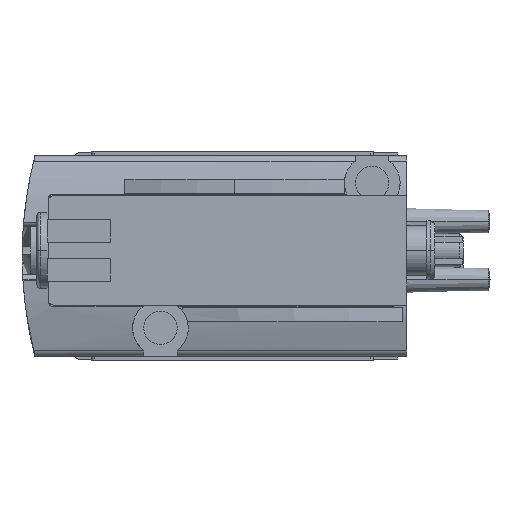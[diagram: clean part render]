
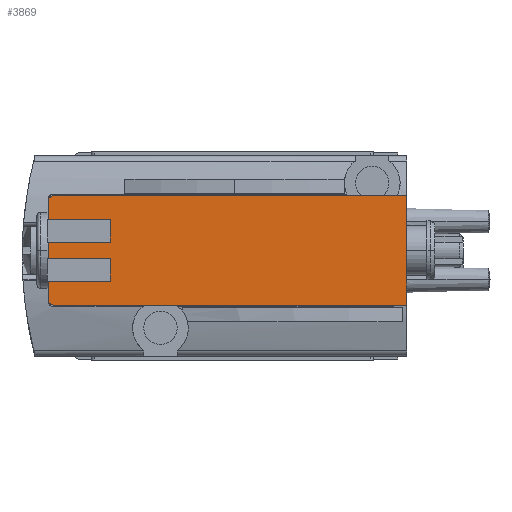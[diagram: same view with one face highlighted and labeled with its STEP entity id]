
A CAD part, left-side view. The second image highlights one B-rep face of the part: STEP entity #3869.
In plain terms, the highlighted planar face has unit normal (-1, 0, 0).
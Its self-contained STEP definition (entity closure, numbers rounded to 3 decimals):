
#8 = DIRECTION ( 'NONE',  ( 0., 1., 0. ) ) ;
#11 = VERTEX_POINT ( 'NONE', #5850 ) ;
#41 = LINE ( 'NONE', #5747, #1104 ) ;
#89 = EDGE_CURVE ( 'NONE', #11, #4051, #509, .T. ) ;
#126 = DIRECTION ( 'NONE',  ( 0., 0., 1. ) ) ;
#144 = CARTESIAN_POINT ( 'NONE',  ( -128.8, 69.1, -118.75 ) ) ;
#155 = VERTEX_POINT ( 'NONE', #3416 ) ;
#360 = VERTEX_POINT ( 'NONE', #5123 ) ;
#469 = CARTESIAN_POINT ( 'NONE',  ( -128.8, 71.316, -124.4 ) ) ;
#470 = CARTESIAN_POINT ( 'NONE',  ( -128.8, 74.181, -123.9 ) ) ;
#509 = CIRCLE ( 'NONE', #10120, 0.5 ) ;
#594 = CARTESIAN_POINT ( 'NONE',  ( -128.8, 69.1, -115.1 ) ) ;
#744 = VECTOR ( 'NONE', #126, 1000. ) ;
#916 = DIRECTION ( 'NONE',  ( 0., 0., -1. ) ) ;
#1049 = CARTESIAN_POINT ( 'NONE',  ( -128.8, 69.1, -118.75 ) ) ;
#1104 = VECTOR ( 'NONE', #6766, 1000. ) ;
#1162 = ORIENTED_EDGE ( 'NONE', *, *, #1470, .F. ) ;
#1470 = EDGE_CURVE ( 'NONE', #7063, #10327, #6790, .T. ) ;
#1578 = LINE ( 'NONE', #11353, #4526 ) ;
#1877 = CARTESIAN_POINT ( 'NONE',  ( -128.8, 71.316, -115.1 ) ) ;
#1998 = ORIENTED_EDGE ( 'NONE', *, *, #8787, .F. ) ;
#2062 = CARTESIAN_POINT ( 'NONE',  ( -128.8, 74.681, -115.1 ) ) ;
#2183 = CARTESIAN_POINT ( 'NONE',  ( -128.8, 74.181, -114.6 ) ) ;
#2202 = ORIENTED_EDGE ( 'NONE', *, *, #12140, .F. ) ;
#2480 = VECTOR ( 'NONE', #11301, 1000. ) ;
#2530 = DIRECTION ( 'NONE',  ( 0., 0., 1. ) ) ;
#2575 = CARTESIAN_POINT ( 'NONE',  ( -128.8, 74.681, -123.9 ) ) ;
#2646 = CARTESIAN_POINT ( 'NONE',  ( -128.8, 42.5, -124.4 ) ) ;
#2723 = LINE ( 'NONE', #12428, #6937 ) ;
#3013 = VERTEX_POINT ( 'NONE', #1049 ) ;
#3260 = ORIENTED_EDGE ( 'NONE', *, *, #11743, .T. ) ;
#3359 = CARTESIAN_POINT ( 'NONE',  ( -128.8, 74.181, -115.1 ) ) ;
#3416 = CARTESIAN_POINT ( 'NONE',  ( -128.8, 69.1, -122.25 ) ) ;
#3511 = VERTEX_POINT ( 'NONE', #9578 ) ;
#3805 = ORIENTED_EDGE ( 'NONE', *, *, #5595, .F. ) ;
#3869 = ADVANCED_FACE ( 'NONE', ( #6736 ), #10632, .F. ) ;
#3938 = ORIENTED_EDGE ( 'NONE', *, *, #7759, .T. ) ;
#4043 = DIRECTION ( 'NONE',  ( 0., 0., 1. ) ) ;
#4051 = VERTEX_POINT ( 'NONE', #2575 ) ;
#4115 = ORIENTED_EDGE ( 'NONE', *, *, #9349, .F. ) ;
#4155 = VECTOR ( 'NONE', #4645, 1000. ) ;
#4240 = ORIENTED_EDGE ( 'NONE', *, *, #10980, .T. ) ;
#4404 = VERTEX_POINT ( 'NONE', #4764 ) ;
#4463 = LINE ( 'NONE', #6458, #2480 ) ;
#4471 = VERTEX_POINT ( 'NONE', #5861 ) ;
#4513 = CARTESIAN_POINT ( 'NONE',  ( -128.8, 42.5, -125.5 ) ) ;
#4526 = VECTOR ( 'NONE', #10531, 1000. ) ;
#4588 = AXIS2_PLACEMENT_3D ( 'NONE', #1877, #5775, #916 ) ;
#4645 = DIRECTION ( 'NONE',  ( 0., 0., -1. ) ) ;
#4764 = CARTESIAN_POINT ( 'NONE',  ( -128.8, 74.681, -120.25 ) ) ;
#4779 = DIRECTION ( 'NONE',  ( 0., 1., 0. ) ) ;
#5123 = CARTESIAN_POINT ( 'NONE',  ( -128.8, 74.681, -122.25 ) ) ;
#5595 = EDGE_CURVE ( 'NONE', #8930, #7063, #2723, .T. ) ;
#5653 = LINE ( 'NONE', #594, #8070 ) ;
#5747 = CARTESIAN_POINT ( 'NONE',  ( -128.8, 72.581, -120.25 ) ) ;
#5775 = DIRECTION ( 'NONE',  ( 1., 0., 0. ) ) ;
#5842 = CARTESIAN_POINT ( 'NONE',  ( -128.8, 74.681, -116.75 ) ) ;
#5850 = CARTESIAN_POINT ( 'NONE',  ( -128.8, 74.181, -124.4 ) ) ;
#5861 = CARTESIAN_POINT ( 'NONE',  ( -128.8, 69.1, -120.25 ) ) ;
#5936 = VERTEX_POINT ( 'NONE', #6669 ) ;
#6458 = CARTESIAN_POINT ( 'NONE',  ( -128.8, 69.1, -122.25 ) ) ;
#6613 = DIRECTION ( 'NONE',  ( 0., -1., 0. ) ) ;
#6669 = CARTESIAN_POINT ( 'NONE',  ( -128.8, 74.681, -118.75 ) ) ;
#6736 = FACE_OUTER_BOUND ( 'NONE', #8221, .T. ) ;
#6766 = DIRECTION ( 'NONE',  ( 0., -1., 0. ) ) ;
#6790 = CIRCLE ( 'NONE', #8235, 0.5 ) ;
#6867 = VERTEX_POINT ( 'NONE', #2646 ) ;
#6937 = VECTOR ( 'NONE', #2530, 1000. ) ;
#7063 = VERTEX_POINT ( 'NONE', #2062 ) ;
#7269 = DIRECTION ( 'NONE',  ( 1., 0., 0. ) ) ;
#7581 = CARTESIAN_POINT ( 'NONE',  ( -128.8, 72.347, -116.75 ) ) ;
#7638 = CARTESIAN_POINT ( 'NONE',  ( -128.8, 42.5, -114.6 ) ) ;
#7759 = EDGE_CURVE ( 'NONE', #155, #360, #4463, .T. ) ;
#7978 = ORIENTED_EDGE ( 'NONE', *, *, #10185, .F. ) ;
#8070 = VECTOR ( 'NONE', #8400, 1000. ) ;
#8221 = EDGE_LOOP ( 'NONE', ( #1162, #3805, #8430, #2202, #4240, #11025, #3260, #7978, #3938, #1998, #10538, #11244, #4115, #8714 ) ) ;
#8223 = EDGE_CURVE ( 'NONE', #4404, #5936, #1578, .T. ) ;
#8235 = AXIS2_PLACEMENT_3D ( 'NONE', #3359, #7269, #11275 ) ;
#8400 = DIRECTION ( 'NONE',  ( 0., 0., 1. ) ) ;
#8430 = ORIENTED_EDGE ( 'NONE', *, *, #10867, .T. ) ;
#8539 = LINE ( 'NONE', #7581, #11371 ) ;
#8563 = EDGE_CURVE ( 'NONE', #6867, #11, #9247, .T. ) ;
#8714 = ORIENTED_EDGE ( 'NONE', *, *, #10565, .T. ) ;
#8787 = EDGE_CURVE ( 'NONE', #4051, #360, #11830, .T. ) ;
#8897 = CARTESIAN_POINT ( 'NONE',  ( -128.8, 69.1, -115.1 ) ) ;
#8930 = VERTEX_POINT ( 'NONE', #5842 ) ;
#9062 = VECTOR ( 'NONE', #4043, 1000. ) ;
#9247 = LINE ( 'NONE', #469, #9880 ) ;
#9349 = EDGE_CURVE ( 'NONE', #9725, #6867, #12309, .T. ) ;
#9578 = CARTESIAN_POINT ( 'NONE',  ( -128.8, 69.1, -116.75 ) ) ;
#9664 = LINE ( 'NONE', #8897, #744 ) ;
#9725 = VERTEX_POINT ( 'NONE', #7638 ) ;
#9880 = VECTOR ( 'NONE', #11151, 1000. ) ;
#10120 = AXIS2_PLACEMENT_3D ( 'NONE', #470, #10141, #11337 ) ;
#10141 = DIRECTION ( 'NONE',  ( 1., 0., 0. ) ) ;
#10185 = EDGE_CURVE ( 'NONE', #155, #4471, #9664, .T. ) ;
#10327 = VERTEX_POINT ( 'NONE', #2183 ) ;
#10531 = DIRECTION ( 'NONE',  ( 0., 0., 1. ) ) ;
#10538 = ORIENTED_EDGE ( 'NONE', *, *, #89, .F. ) ;
#10558 = VECTOR ( 'NONE', #8, 1000. ) ;
#10565 = EDGE_CURVE ( 'NONE', #9725, #10327, #11741, .T. ) ;
#10627 = CARTESIAN_POINT ( 'NONE',  ( -128.8, 74.681, -115.1 ) ) ;
#10632 = PLANE ( 'NONE',  #4588 ) ;
#10728 = CARTESIAN_POINT ( 'NONE',  ( -128.8, 71.316, -114.6 ) ) ;
#10867 = EDGE_CURVE ( 'NONE', #8930, #3511, #8539, .T. ) ;
#10955 = LINE ( 'NONE', #144, #10558 ) ;
#10980 = EDGE_CURVE ( 'NONE', #3013, #5936, #10955, .T. ) ;
#11025 = ORIENTED_EDGE ( 'NONE', *, *, #8223, .F. ) ;
#11151 = DIRECTION ( 'NONE',  ( 0., 1., 0. ) ) ;
#11244 = ORIENTED_EDGE ( 'NONE', *, *, #8563, .F. ) ;
#11275 = DIRECTION ( 'NONE',  ( 0., 0., -1. ) ) ;
#11301 = DIRECTION ( 'NONE',  ( 0., 1., 0. ) ) ;
#11337 = DIRECTION ( 'NONE',  ( 0., 0., -1. ) ) ;
#11353 = CARTESIAN_POINT ( 'NONE',  ( -128.8, 74.681, -115.1 ) ) ;
#11371 = VECTOR ( 'NONE', #6613, 1000. ) ;
#11741 = LINE ( 'NONE', #10728, #12171 ) ;
#11743 = EDGE_CURVE ( 'NONE', #4404, #4471, #41, .T. ) ;
#11830 = LINE ( 'NONE', #10627, #9062 ) ;
#12140 = EDGE_CURVE ( 'NONE', #3013, #3511, #5653, .T. ) ;
#12171 = VECTOR ( 'NONE', #4779, 1000. ) ;
#12309 = LINE ( 'NONE', #4513, #4155 ) ;
#12428 = CARTESIAN_POINT ( 'NONE',  ( -128.8, 74.681, -115.1 ) ) ;
